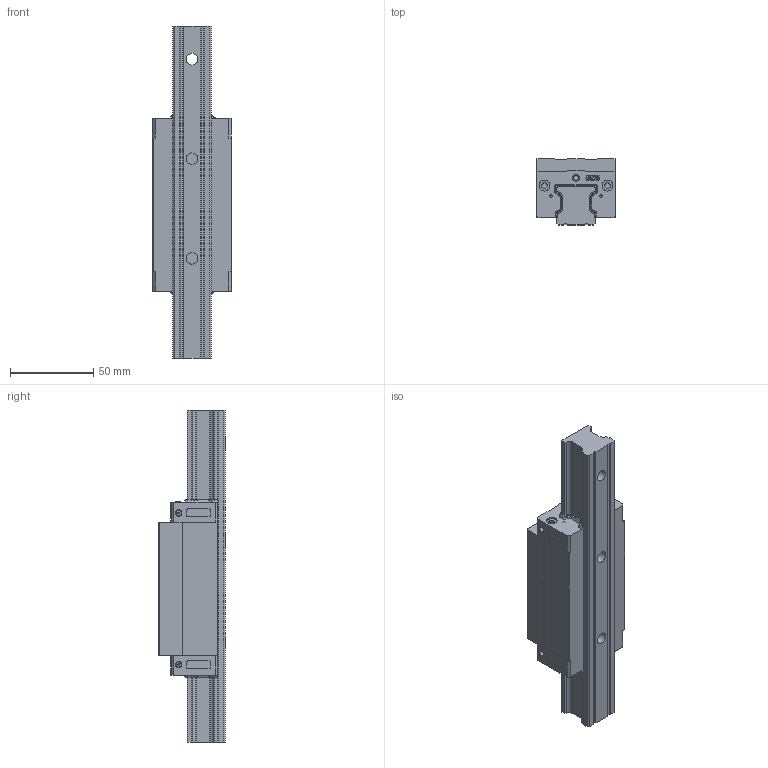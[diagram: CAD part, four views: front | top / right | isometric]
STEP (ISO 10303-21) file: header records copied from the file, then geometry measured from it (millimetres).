
FILE_DESCRIPTION(/* description */ (''),/* implementation_level */ '2;1');
FILE_NAME(/* name */ 'SGH25BL.stp',/* time_stamp */ '2021-05-27T16:17:41+08:00',/* author */ (''),/* organization */ (''),/* preprocessor_version */ 'ST-DEVELOPER v15',/* originating_system */ 'SIEMENS PLM Software NX 8.5',/* authorisation */ '');
FILE_SCHEMA (('CONFIG_CONTROL_DESIGN'));
Length unit declared in the file: millimetre
Products named in the file (1): SGH25BL
Bounding box: 48 x 40 x 200 mm (x, y, z)
Volume: 213332.1 mm3; surface area: 48905 mm2
Topology: 2 solids, 6 shells, 481 faces, 1292 edges, 866 vertices
Faces by surface type: plane 220, extrusion 114, cylinder 104, cone 39, bspline 4
Full cylindrical faces by diameter (mm): 1 x4, 1.6 x4, 3.2 x4, 3.3 x4, 3.5 x4, 5 x4, 6.5 x4, 7 x3, 11 x3
Entity records: 17353 total; most frequent: CARTESIAN_POINT 5853, ORIENTED_EDGE 2436, DIRECTION 2053, EDGE_CURVE 1218, VERTEX_POINT 837, VECTOR 775, LINE 661, AXIS2_PLACEMENT_3D 639
